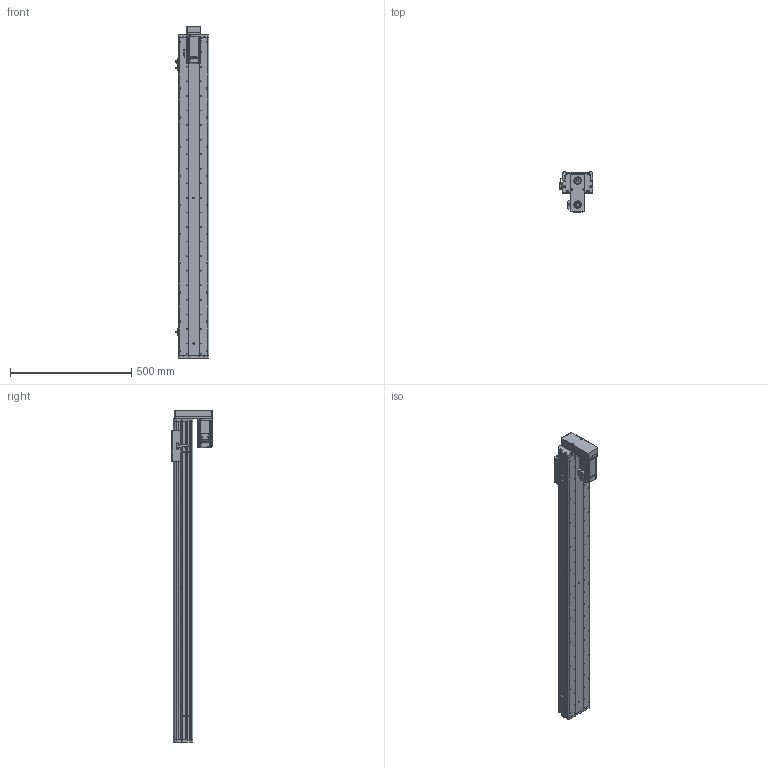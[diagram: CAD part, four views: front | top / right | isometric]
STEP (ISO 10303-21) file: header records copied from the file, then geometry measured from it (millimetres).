
FILE_DESCRIPTION (( 'STEP AP214' ), '1' );
FILE_NAME ('KSD125S-S1100-MD-CM.STEP', '2017-10-21T08:18:33', ( '微软用户' ), ( '微软中国' ), 'SwSTEP 2.0', 'SolidWorks 2014', '' );
FILE_SCHEMA (( 'AUTOMOTIVE_DESIGN' ));
Length unit declared in the file: millimetre
Products named in the file (16): 拸萇儂釱滅袉菜-1; 覜茼え68遵圉猾敕; U倰嫖萇假蚾璃; U倰嫖萇EEㄜSX672; ヶ傷啣-125遵耀郪; 125-帣傷啣1; KSD125S-S1100-MD-CM; 125宽马达安装板连板上下折丝杆同步带; 125遵悵誘欶奻狟殏; HTPA30S3M150_A_H6_a佪裝蚚; HTPA30S3M150_A_H6_a萇儂蚚; KSD125S-1100俴最佪裝滅鳥裔; KSD125S-1100俴最佪裝菁啣; KSD125-賑雄釱1; MHMD042G1CA_2_03; 拸萇儂釱滅袉菜
Assembly tree (19 placements, depth 2):
  KSD125S-S1100-MD-CM
    125-帣傷啣1
    ヶ傷啣-125遵耀郪
    U倰嫖萇EEㄜSX672  x3
    U倰嫖萇假蚾璃  x3
    覜茼え68遵圉猾敕
    拸萇儂釱滅袉菜-1
    拸萇儂釱滅袉菜
    MHMD042G1CA_2_03
    KSD125-賑雄釱1
    KSD125S-1100俴最佪裝菁啣
    KSD125S-1100俴最佪裝滅鳥裔
    HTPA30S3M150_A_H6_a萇儂蚚
    HTPA30S3M150_A_H6_a佪裝蚚
    125遵悵誘欶奻狟殏
    125宽马达安装板连板上下折丝杆同步带
Bounding box: 138.7 x 165 x 1367.5 mm (x, y, z)
Volume: 4216215.3 mm3; surface area: 1410938.1 mm2
Topology: 18 solids, 21 shells, 2273 faces, 6597 edges, 4353 vertices
Faces by surface type: cylinder 1442, plane 690, cone 119, bspline 22
Entity records: 81857 total; most frequent: CARTESIAN_POINT 16327, DIRECTION 12571, ORIENTED_EDGE 11702, EDGE_CURVE 5929, AXIS2_PLACEMENT_3D 4875, VERTEX_POINT 3945, CIRCLE 2821, VECTOR 2821
